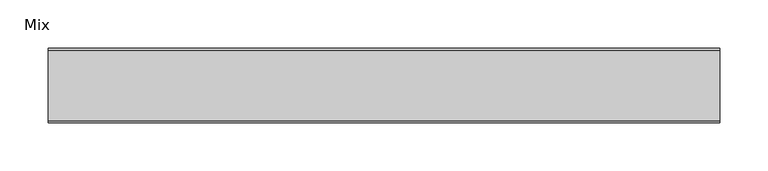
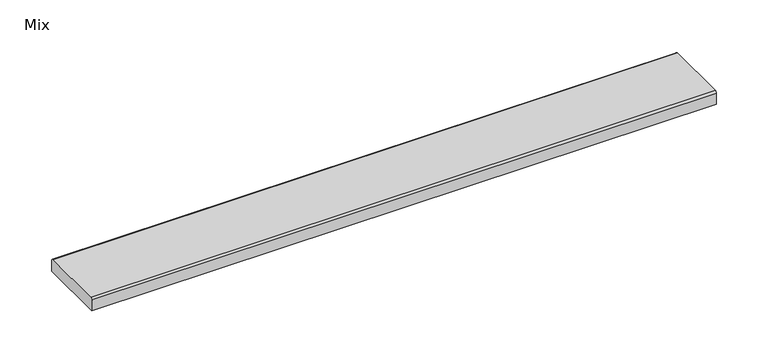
"""IFC4 building model written with IfcOpenShell, lengths in millimetres: sanitary terminal geometry, ZZZ_do not use_PF_UN_grating for ShowerDrain E and M series_ACO : Mix."""

from ifc_helpers import new_model, si_unit, point, frame, frame_2d, origin, place, context, project, spatial, polyline, circle_curve, trimmed, segment, composite_curve, outline, extrude, source, transform, mapped, element, save


def mix_c74ceb65(model_context):
    return source(origin(), model_context, "Body", "SweptSolid", [
        extrude(outline(composite_curve([segment(polyline([(38.5, -15.0), (-38.5, -15.0), (-38.5, -1.977849)]), True, "CONTINUOUS"), segment(trimmed(circle_curve(frame_2d((-36.522151, -1.977849)), 1.977849), [point((-38.5, -1.977849))], [point((-36.522151, 0.0))], False, "CARTESIAN"), True, "CONTINUOUS"), segment(polyline([(-36.522151, 0.0), (36.522151, 0.0)]), True, "CONTINUOUS"), segment(trimmed(circle_curve(frame_2d((36.522151, -1.977849)), 1.977849), [point((36.522151, 0.0))], [point((38.5, -1.977849))], False, "CARTESIAN"), True, "CONTINUOUS"), segment(polyline([(38.5, -1.977849), (38.5, -15.0)]), True, "CONTINUOUS")], self_intersect=False)), frame((-348.0, 0.0, 0.0), z_axis=(1.0, 0.0, 0.0), x_axis=(0.0, 1.0, 0.0)), (0.0, 0.0, 1.0), 696.0),
    ])


if __name__ == "__main__":
    model = new_model("IFC4")
    model_context = context("Model", 3, world=origin())
    ifc_project = project(units=[si_unit("LENGTHUNIT", "METRE", prefix="MILLI")], contexts=[model_context])
    site = spatial("IfcSite", under=ifc_project)
    building = spatial("IfcBuilding", under=site)
    placement = place(None, origin())
    mix_shape = mix_c74ceb65(model_context)
    element("IfcSanitaryTerminal", 1, ObjectType="ZZZ_do not use_PF_UN_grating for ShowerDrain E and M series_ACO : Mix", at=placement, inside=building, context=model_context, shape_type="MappedRepresentation", body=[
        mapped(mix_shape, transform((0.0, 0.0, 0.0), x_axis=(1.0, 0.0, 0.0), y_axis=(0.0, 1.0, 0.0), z_axis=(0.0, 0.0, 1.0))),
    ])
    save(model, "model.ifc")
